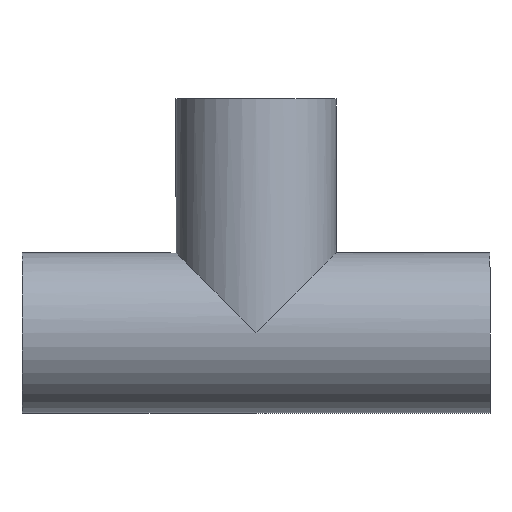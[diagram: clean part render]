
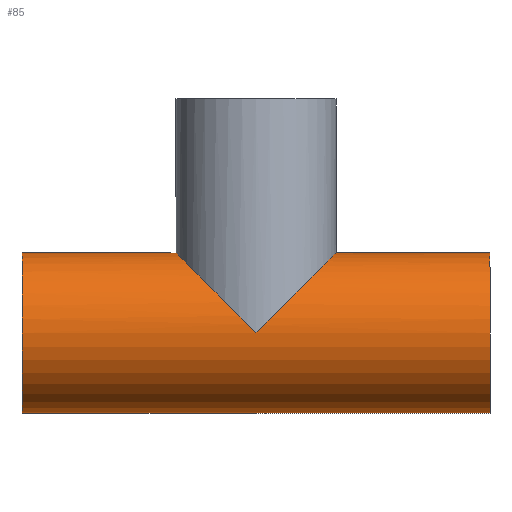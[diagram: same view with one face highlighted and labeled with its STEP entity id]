
A CAD part, front view. The second image highlights one B-rep face of the part: STEP entity #85.
In plain terms, the highlighted cylindrical face has radius 77 mm (diameter 154 mm), a full revolution.
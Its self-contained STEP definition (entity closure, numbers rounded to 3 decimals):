
#21 = EDGE_CURVE('',#22,#22,#24,.T.);
#22 = VERTEX_POINT('',#23);
#23 = CARTESIAN_POINT('',(-225.,0.,-77.));
#24 = SURFACE_CURVE('',#25,(#30,#42),.PCURVE_S1.);
#25 = CIRCLE('',#26,77.);
#26 = AXIS2_PLACEMENT_3D('',#27,#28,#29);
#27 = CARTESIAN_POINT('',(-225.,0.,0.));
#28 = DIRECTION('',(1.,-0.,0.));
#29 = DIRECTION('',(0.,0.,-1.));
#30 = PCURVE('',#31,#36);
#31 = PLANE('',#32);
#32 = AXIS2_PLACEMENT_3D('',#33,#34,#35);
#33 = CARTESIAN_POINT('',(-225.,0.,0.));
#34 = DIRECTION('',(1.,0.,0.));
#35 = DIRECTION('',(0.,0.,-1.));
#36 = DEFINITIONAL_REPRESENTATION('',(#37),#41);
#37 = CIRCLE('',#38,77.);
#38 = AXIS2_PLACEMENT_2D('',#39,#40);
#39 = CARTESIAN_POINT('',(0.,0.));
#40 = DIRECTION('',(1.,0.));
#41 = ( GEOMETRIC_REPRESENTATION_CONTEXT(2) 
PARAMETRIC_REPRESENTATION_CONTEXT() REPRESENTATION_CONTEXT('2D SPACE',''
  ) );
#42 = PCURVE('',#43,#48);
#43 = CYLINDRICAL_SURFACE('',#44,77.);
#44 = AXIS2_PLACEMENT_3D('',#45,#46,#47);
#45 = CARTESIAN_POINT('',(-225.,0.,0.));
#46 = DIRECTION('',(1.,0.,0.));
#47 = DIRECTION('',(0.,0.,-1.));
#48 = DEFINITIONAL_REPRESENTATION('',(#49),#53);
#49 = LINE('',#50,#51);
#50 = CARTESIAN_POINT('',(0.,0.));
#51 = VECTOR('',#52,1.);
#52 = DIRECTION('',(1.,0.));
#53 = ( GEOMETRIC_REPRESENTATION_CONTEXT(2) 
PARAMETRIC_REPRESENTATION_CONTEXT() REPRESENTATION_CONTEXT('2D SPACE',''
  ) );
#85 = ADVANCED_FACE('',(#86,#140),#43,.T.);
#86 = FACE_BOUND('',#87,.T.);
#87 = EDGE_LOOP('',(#88,#111,#138,#139));
#88 = ORIENTED_EDGE('',*,*,#89,.T.);
#89 = EDGE_CURVE('',#22,#90,#92,.T.);
#90 = VERTEX_POINT('',#91);
#91 = CARTESIAN_POINT('',(225.,0.,-77.));
#92 = SEAM_CURVE('',#93,(#97,#104),.PCURVE_S1.);
#93 = LINE('',#94,#95);
#94 = CARTESIAN_POINT('',(-225.,0.,-77.));
#95 = VECTOR('',#96,1.);
#96 = DIRECTION('',(1.,0.,0.));
#97 = PCURVE('',#43,#98);
#98 = DEFINITIONAL_REPRESENTATION('',(#99),#103);
#99 = LINE('',#100,#101);
#100 = CARTESIAN_POINT('',(6.283,-0.));
#101 = VECTOR('',#102,1.);
#102 = DIRECTION('',(0.,1.));
#103 = ( GEOMETRIC_REPRESENTATION_CONTEXT(2) 
PARAMETRIC_REPRESENTATION_CONTEXT() REPRESENTATION_CONTEXT('2D SPACE',''
  ) );
#104 = PCURVE('',#43,#105);
#105 = DEFINITIONAL_REPRESENTATION('',(#106),#110);
#106 = LINE('',#107,#108);
#107 = CARTESIAN_POINT('',(0.,-0.));
#108 = VECTOR('',#109,1.);
#109 = DIRECTION('',(0.,1.));
#110 = ( GEOMETRIC_REPRESENTATION_CONTEXT(2) 
PARAMETRIC_REPRESENTATION_CONTEXT() REPRESENTATION_CONTEXT('2D SPACE',''
  ) );
#111 = ORIENTED_EDGE('',*,*,#112,.F.);
#112 = EDGE_CURVE('',#90,#90,#113,.T.);
#113 = SURFACE_CURVE('',#114,(#119,#126),.PCURVE_S1.);
#114 = CIRCLE('',#115,77.);
#115 = AXIS2_PLACEMENT_3D('',#116,#117,#118);
#116 = CARTESIAN_POINT('',(225.,0.,0.));
#117 = DIRECTION('',(1.,-0.,0.));
#118 = DIRECTION('',(0.,0.,-1.));
#119 = PCURVE('',#43,#120);
#120 = DEFINITIONAL_REPRESENTATION('',(#121),#125);
#121 = LINE('',#122,#123);
#122 = CARTESIAN_POINT('',(0.,450.));
#123 = VECTOR('',#124,1.);
#124 = DIRECTION('',(1.,0.));
#125 = ( GEOMETRIC_REPRESENTATION_CONTEXT(2) 
PARAMETRIC_REPRESENTATION_CONTEXT() REPRESENTATION_CONTEXT('2D SPACE',''
  ) );
#126 = PCURVE('',#127,#132);
#127 = PLANE('',#128);
#128 = AXIS2_PLACEMENT_3D('',#129,#130,#131);
#129 = CARTESIAN_POINT('',(225.,0.,0.));
#130 = DIRECTION('',(1.,0.,0.));
#131 = DIRECTION('',(0.,0.,-1.));
#132 = DEFINITIONAL_REPRESENTATION('',(#133),#137);
#133 = CIRCLE('',#134,77.);
#134 = AXIS2_PLACEMENT_2D('',#135,#136);
#135 = CARTESIAN_POINT('',(0.,0.));
#136 = DIRECTION('',(1.,0.));
#137 = ( GEOMETRIC_REPRESENTATION_CONTEXT(2) 
PARAMETRIC_REPRESENTATION_CONTEXT() REPRESENTATION_CONTEXT('2D SPACE',''
  ) );
#138 = ORIENTED_EDGE('',*,*,#89,.F.);
#139 = ORIENTED_EDGE('',*,*,#21,.T.);
#140 = FACE_BOUND('',#141,.T.);
#141 = EDGE_LOOP('',(#142,#189,#227));
#142 = ORIENTED_EDGE('',*,*,#143,.F.);
#143 = EDGE_CURVE('',#144,#146,#148,.T.);
#144 = VERTEX_POINT('',#145);
#145 = CARTESIAN_POINT('',(0.,77.,0.));
#146 = VERTEX_POINT('',#147);
#147 = CARTESIAN_POINT('',(0.,-77.,0.));
#148 = SURFACE_CURVE('',#149,(#154,#169),.PCURVE_S1.);
#149 = ELLIPSE('',#150,108.894,77.);
#150 = AXIS2_PLACEMENT_3D('',#151,#152,#153);
#151 = CARTESIAN_POINT('',(0.,0.,0.));
#152 = DIRECTION('',(0.707,-0.,0.707));
#153 = DIRECTION('',(0.707,0.,-0.707));
#154 = PCURVE('',#43,#155);
#155 = DEFINITIONAL_REPRESENTATION('',(#156),#168);
#156 = B_SPLINE_CURVE_WITH_KNOTS('',10,(#157,#158,#159,#160,#161,#162,
    #163,#164,#165,#166,#167),.UNSPECIFIED.,.F.,.F.,(11,11),(
    1.571,4.712),.PIECEWISE_BEZIER_KNOTS.);
#157 = CARTESIAN_POINT('',(1.571,225.));
#158 = CARTESIAN_POINT('',(1.885,200.81));
#159 = CARTESIAN_POINT('',(2.199,176.619));
#160 = CARTESIAN_POINT('',(2.513,155.745));
#161 = CARTESIAN_POINT('',(2.827,141.503));
#162 = CARTESIAN_POINT('',(3.142,136.429));
#163 = CARTESIAN_POINT('',(3.456,141.503));
#164 = CARTESIAN_POINT('',(3.77,155.745));
#165 = CARTESIAN_POINT('',(4.084,176.619));
#166 = CARTESIAN_POINT('',(4.398,200.81));
#167 = CARTESIAN_POINT('',(4.712,225.));
#168 = ( GEOMETRIC_REPRESENTATION_CONTEXT(2) 
PARAMETRIC_REPRESENTATION_CONTEXT() REPRESENTATION_CONTEXT('2D SPACE',''
  ) );
#169 = PCURVE('',#170,#175);
#170 = CYLINDRICAL_SURFACE('',#171,77.);
#171 = AXIS2_PLACEMENT_3D('',#172,#173,#174);
#172 = CARTESIAN_POINT('',(0.,0.,0.));
#173 = DIRECTION('',(0.,0.,1.));
#174 = DIRECTION('',(1.,0.,0.));
#175 = DEFINITIONAL_REPRESENTATION('',(#176),#188);
#176 = B_SPLINE_CURVE_WITH_KNOTS('',10,(#177,#178,#179,#180,#181,#182,
    #183,#184,#185,#186,#187),.UNSPECIFIED.,.F.,.F.,(11,11),(
    1.571,4.712),.PIECEWISE_BEZIER_KNOTS.);
#177 = CARTESIAN_POINT('',(1.571,0.));
#178 = CARTESIAN_POINT('',(1.885,24.19));
#179 = CARTESIAN_POINT('',(2.199,48.381));
#180 = CARTESIAN_POINT('',(2.513,69.255));
#181 = CARTESIAN_POINT('',(2.827,83.497));
#182 = CARTESIAN_POINT('',(3.142,88.571));
#183 = CARTESIAN_POINT('',(3.456,83.497));
#184 = CARTESIAN_POINT('',(3.77,69.255));
#185 = CARTESIAN_POINT('',(4.084,48.381));
#186 = CARTESIAN_POINT('',(4.398,24.19));
#187 = CARTESIAN_POINT('',(4.712,0.));
#188 = ( GEOMETRIC_REPRESENTATION_CONTEXT(2) 
PARAMETRIC_REPRESENTATION_CONTEXT() REPRESENTATION_CONTEXT('2D SPACE',''
  ) );
#189 = ORIENTED_EDGE('',*,*,#190,.T.);
#190 = EDGE_CURVE('',#144,#191,#193,.T.);
#191 = VERTEX_POINT('',#192);
#192 = CARTESIAN_POINT('',(77.,0.,77.));
#193 = SURFACE_CURVE('',#194,(#199,#213),.PCURVE_S1.);
#194 = ELLIPSE('',#195,108.894,77.);
#195 = AXIS2_PLACEMENT_3D('',#196,#197,#198);
#196 = CARTESIAN_POINT('',(0.,0.,0.));
#197 = DIRECTION('',(0.707,0.,-0.707));
#198 = DIRECTION('',(0.707,0.,0.707));
#199 = PCURVE('',#43,#200);
#200 = DEFINITIONAL_REPRESENTATION('',(#201),#212);
#201 = B_SPLINE_CURVE_WITH_KNOTS('',9,(#202,#203,#204,#205,#206,#207,
    #208,#209,#210,#211),.UNSPECIFIED.,.F.,.F.,(10,10),(4.712,
    6.283),.PIECEWISE_BEZIER_KNOTS.);
#202 = CARTESIAN_POINT('',(1.571,225.));
#203 = CARTESIAN_POINT('',(1.745,238.439));
#204 = CARTESIAN_POINT('',(1.92,251.878));
#205 = CARTESIAN_POINT('',(2.094,264.725));
#206 = CARTESIAN_POINT('',(2.269,276.388));
#207 = CARTESIAN_POINT('',(2.443,286.323));
#208 = CARTESIAN_POINT('',(2.618,294.084));
#209 = CARTESIAN_POINT('',(2.793,299.361));
#210 = CARTESIAN_POINT('',(2.967,302.));
#211 = CARTESIAN_POINT('',(3.142,302.));
#212 = ( GEOMETRIC_REPRESENTATION_CONTEXT(2) 
PARAMETRIC_REPRESENTATION_CONTEXT() REPRESENTATION_CONTEXT('2D SPACE',''
  ) );
#213 = PCURVE('',#170,#214);
#214 = DEFINITIONAL_REPRESENTATION('',(#215),#226);
#215 = B_SPLINE_CURVE_WITH_KNOTS('',9,(#216,#217,#218,#219,#220,#221,
    #222,#223,#224,#225),.UNSPECIFIED.,.F.,.F.,(10,10),(4.712,
    6.283),.PIECEWISE_BEZIER_KNOTS.);
#216 = CARTESIAN_POINT('',(1.571,0.));
#217 = CARTESIAN_POINT('',(1.396,13.439));
#218 = CARTESIAN_POINT('',(1.222,26.878));
#219 = CARTESIAN_POINT('',(1.047,39.725));
#220 = CARTESIAN_POINT('',(0.873,51.388));
#221 = CARTESIAN_POINT('',(0.698,61.323));
#222 = CARTESIAN_POINT('',(0.524,69.084));
#223 = CARTESIAN_POINT('',(0.349,74.361));
#224 = CARTESIAN_POINT('',(0.175,77.));
#225 = CARTESIAN_POINT('',(0.,77.));
#226 = ( GEOMETRIC_REPRESENTATION_CONTEXT(2) 
PARAMETRIC_REPRESENTATION_CONTEXT() REPRESENTATION_CONTEXT('2D SPACE',''
  ) );
#227 = ORIENTED_EDGE('',*,*,#228,.T.);
#228 = EDGE_CURVE('',#191,#146,#229,.T.);
#229 = SURFACE_CURVE('',#230,(#235,#249),.PCURVE_S1.);
#230 = ELLIPSE('',#231,108.894,77.);
#231 = AXIS2_PLACEMENT_3D('',#232,#233,#234);
#232 = CARTESIAN_POINT('',(0.,0.,0.));
#233 = DIRECTION('',(0.707,0.,-0.707));
#234 = DIRECTION('',(0.707,0.,0.707));
#235 = PCURVE('',#43,#236);
#236 = DEFINITIONAL_REPRESENTATION('',(#237),#248);
#237 = B_SPLINE_CURVE_WITH_KNOTS('',9,(#238,#239,#240,#241,#242,#243,
    #244,#245,#246,#247),.UNSPECIFIED.,.F.,.F.,(10,10),(0.,
    1.571),.PIECEWISE_BEZIER_KNOTS.);
#238 = CARTESIAN_POINT('',(3.142,302.));
#239 = CARTESIAN_POINT('',(3.316,302.));
#240 = CARTESIAN_POINT('',(3.491,299.361));
#241 = CARTESIAN_POINT('',(3.665,294.084));
#242 = CARTESIAN_POINT('',(3.84,286.323));
#243 = CARTESIAN_POINT('',(4.014,276.388));
#244 = CARTESIAN_POINT('',(4.189,264.725));
#245 = CARTESIAN_POINT('',(4.363,251.878));
#246 = CARTESIAN_POINT('',(4.538,238.439));
#247 = CARTESIAN_POINT('',(4.712,225.));
#248 = ( GEOMETRIC_REPRESENTATION_CONTEXT(2) 
PARAMETRIC_REPRESENTATION_CONTEXT() REPRESENTATION_CONTEXT('2D SPACE',''
  ) );
#249 = PCURVE('',#170,#250);
#250 = DEFINITIONAL_REPRESENTATION('',(#251),#262);
#251 = B_SPLINE_CURVE_WITH_KNOTS('',9,(#252,#253,#254,#255,#256,#257,
    #258,#259,#260,#261),.UNSPECIFIED.,.F.,.F.,(10,10),(0.,
    1.571),.PIECEWISE_BEZIER_KNOTS.);
#252 = CARTESIAN_POINT('',(6.283,77.));
#253 = CARTESIAN_POINT('',(6.109,77.));
#254 = CARTESIAN_POINT('',(5.934,74.361));
#255 = CARTESIAN_POINT('',(5.76,69.084));
#256 = CARTESIAN_POINT('',(5.585,61.323));
#257 = CARTESIAN_POINT('',(5.411,51.388));
#258 = CARTESIAN_POINT('',(5.236,39.725));
#259 = CARTESIAN_POINT('',(5.061,26.878));
#260 = CARTESIAN_POINT('',(4.887,13.439));
#261 = CARTESIAN_POINT('',(4.712,0.));
#262 = ( GEOMETRIC_REPRESENTATION_CONTEXT(2) 
PARAMETRIC_REPRESENTATION_CONTEXT() REPRESENTATION_CONTEXT('2D SPACE',''
  ) );
